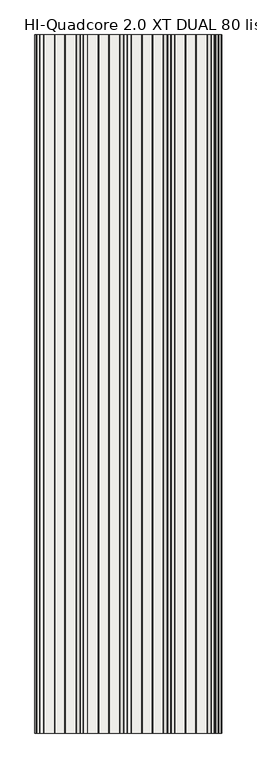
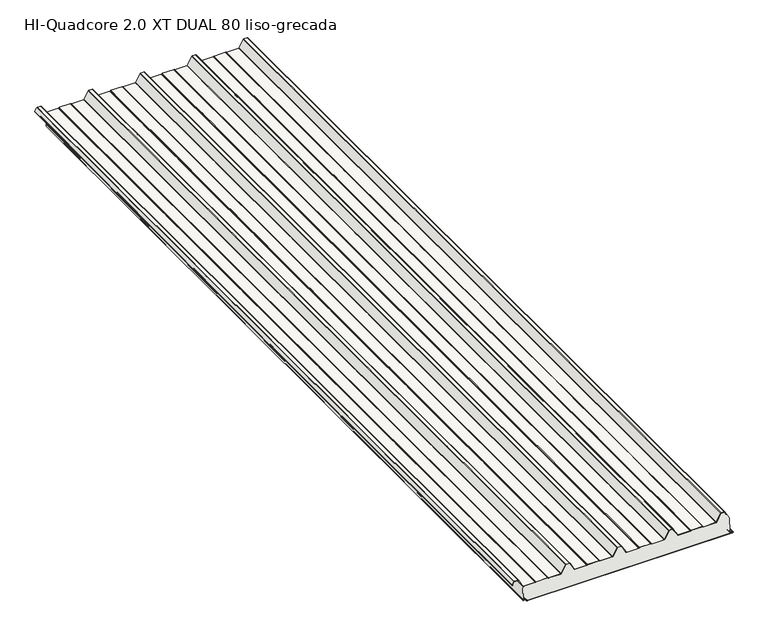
"""IFC4 building model written with IfcOpenShell, lengths in millimetres: slab geometry, Panel_HI_QuadCore 2.0 XT-XT DUAL_liso-grecada : HI-Quadcore 2.0 XT DUAL 80 liso-grecada."""

from ifc_helpers import new_model, si_unit, point, frame, frame_2d, origin, place, context, project, spatial, polyline, circle_curve, trimmed, segment, composite_curve, outline, extrude, source, transform, mapped, element, save
from ifc_brep_helpers import plane_surface, cylinder_surface, revolved_surface, advanced_brep


def hi_quadcore_2_0_xt_dual_80_liso_grecada_d40f7e20(model_context):
    return source(origin(), model_context, "Body", "SolidModel", [
        advanced_brep(
        [(-463.5686109, 0.0, 13.3795578), (-464.1543582, 0.0, 11.9654043), (-464.1543963, 0.0, 8.2995811), (-462.3003213, 0.0, 6.328543), (-451.8922768, 0.0, 5.5663871), (-450.0967368, 0.0, 3.5769209), (-450.0966924, 0.0, 1.9756011), (-448.096637, 0.0, -0.0243435), (547.9162803, 0.0, 0.003269), (549.9046779, 0.0, 2.0032908), (549.904653, 0.0, 2.9012893), (548.0077486, 0.0, 4.8985749), (536.1928118, 0.0, 5.7933732), (534.3438482, 0.0, 7.7876066), (534.3437386, 0.0, 11.7402379), (533.757913, 0.0, 13.1544352), (532.3436602, 0.0, 14.5686095), (531.7779748, 0.0, 14.0029241), (533.1922433, 0.0, 12.5887341), (533.5437386, 0.0, 11.7402157), (533.5438482, 0.0, 7.7875844), (536.1323972, 0.0, 4.9956577), (547.958132, 0.0, 4.1000416), (549.104653, 0.0, 2.9012672), (549.1046779, 0.0, 2.0032686), (547.9136554, 0.0, 0.8032689), (-448.0966592, 0.0, 0.7756565), (-449.2966924, 0.0, 1.9756233), (-449.2967368, 0.0, 3.5769431), (-451.8231384, 0.0, 6.3634663), (-462.2418956, 0.0, 7.1264067), (-463.3542572, 0.0, 8.3231689), (-463.3543582, 0.0, 11.965396), (-463.0029098, 0.0, 12.8138881), (-460.8967817, 0.0, 14.920133), (-461.4624671, 0.0, 15.4858184), (-463.5686109, 4000.0, 13.3795578), (-461.4624671, 4000.0, 15.4858184), (-460.8967817, 4000.0, 14.920133), (-463.0029098, 4000.0, 12.8138881), (-463.3543582, 4000.0, 11.965396), (-463.3543963, 4000.0, 8.2995728), (-462.2418956, 4000.0, 7.1264067), (-451.8231384, 4000.0, 6.3634663), (-449.2967368, 4000.0, 3.5769431), (-449.2966924, 4000.0, 1.9756233), (-448.0966592, 4000.0, 0.7756565), (547.9136554, 4000.0, 0.8032689), (549.1046779, 4000.0, 2.0032686), (549.104653, 4000.0, 2.9012672), (547.958132, 4000.0, 4.1000416), (536.1323972, 4000.0, 4.9956577), (533.5438482, 4000.0, 7.7875844), (533.5437386, 4000.0, 11.7402157), (533.1922433, 4000.0, 12.5887341), (531.7779748, 4000.0, 14.0029241), (532.3436602, 4000.0, 14.5686095), (533.757913, 4000.0, 13.1544352), (534.3437386, 4000.0, 11.7402379), (534.3438482, 4000.0, 7.7876066), (536.1928118, 4000.0, 5.7933732), (548.0077486, 4000.0, 4.8985749), (549.904653, 4000.0, 2.9012893), (549.9046779, 4000.0, 2.0032908), (547.9162803, 4000.0, 0.003269), (-448.096637, 4000.0, -0.0243435), (-450.0966924, 4000.0, 1.9756011), (-450.0967368, 4000.0, 3.5769209), (-451.8922768, 4000.0, 5.5663871), (-462.3003213, 4000.0, 6.328543), (-464.1542572, 4000.0, 8.3231467), (-464.1543582, 4000.0, 11.9654043)],
        [
            (0, 1, circle_curve(frame((-462.1543582, 0.0, 11.9653834), z_axis=(0.0, -1.0, 0.0), x_axis=(1.0, 0.0, 0.0)), 2.0)),
            (1, 2),
            (2, 3, circle_curve(frame((-462.1542572, 0.0, 8.3232022), z_axis=(0.0, -1.0, 0.0), x_axis=(1.0, 0.0, 0.0)), 2.0)),
            (3, 4),
            (4, 5, circle_curve(frame((-452.0967368, 0.0, 3.5768655), z_axis=(0.0, 1.0, 0.0), x_axis=(1.0, 0.0, 0.0)), 2.0)),
            (5, 6),
            (6, 7, circle_curve(frame((-448.0966924, 0.0, 1.9756565), z_axis=(0.0, -1.0, 0.0), x_axis=(1.0, 0.0, 0.0)), 2.0)),
            (7, 8),
            (8, 9, circle_curve(frame((547.9046779, 0.0, 2.0032353), z_axis=(0.0, -1.0, 0.0), x_axis=(1.0, 0.0, 0.0)), 2.0)),
            (9, 10),
            (10, 11, circle_curve(frame((547.904653, 0.0, 2.9012339), z_axis=(0.0, -1.0, 0.0), x_axis=(1.0, 0.0, 0.0)), 2.0)),
            (11, 12),
            (12, 13, circle_curve(frame((536.3438482, 0.0, 7.7876621), z_axis=(0.0, 1.0, 0.0), x_axis=(1.0, 0.0, 0.0)), 2.0)),
            (13, 14),
            (14, 15, circle_curve(frame((532.3437386, 0.0, 11.7401824), z_axis=(0.0, -1.0, 0.0), x_axis=(1.0, 0.0, 0.0)), 2.0)),
            (15, 16),
            (16, 17),
            (17, 18),
            (18, 19, circle_curve(frame((532.3437386, 0.0, 11.7401824), z_axis=(0.0, 1.0, 0.0), x_axis=(1.0, 0.0, 0.0)), 1.2)),
            (19, 20),
            (20, 21, circle_curve(frame((536.3438482, 0.0, 7.7876621), z_axis=(0.0, -1.0, 0.0), x_axis=(1.0, 0.0, 0.0)), 2.8)),
            (21, 22),
            (22, 23, circle_curve(frame((547.904653, 0.0, 2.9012339), z_axis=(0.0, 1.0, 0.0), x_axis=(1.0, 0.0, 0.0)), 1.2)),
            (23, 24),
            (24, 25, circle_curve(frame((547.9046779, 0.0, 2.0032353), z_axis=(0.0, 1.0, 0.0), x_axis=(1.0, 0.0, 0.0)), 1.2)),
            (25, 26),
            (26, 27, circle_curve(frame((-448.0966924, 0.0, 1.9756565), z_axis=(0.0, 1.0, 0.0), x_axis=(1.0, 0.0, 0.0)), 1.2)),
            (27, 28),
            (28, 29, circle_curve(frame((-452.0967368, 0.0, 3.5768655), z_axis=(0.0, -1.0, 0.0), x_axis=(1.0, 0.0, 0.0)), 2.8)),
            (29, 30),
            (30, 31, circle_curve(frame((-462.1542572, 0.0, 8.3232022), z_axis=(0.0, 1.0, 0.0), x_axis=(1.0, 0.0, 0.0)), 1.2)),
            (31, 32),
            (32, 33, circle_curve(frame((-462.1543582, 0.0, 11.9653834), z_axis=(0.0, 1.0, 0.0), x_axis=(1.0, 0.0, 0.0)), 1.2)),
            (33, 34),
            (34, 35),
            (35, 0),
            (36, 37),
            (37, 38),
            (38, 39),
            (39, 40, circle_curve(frame((-462.1543582, 4000.0, 11.9653834), z_axis=(0.0, -1.0, 0.0), x_axis=(1.0, 0.0, 0.0)), 1.2)),
            (40, 41),
            (41, 42, circle_curve(frame((-462.1542572, 4000.0, 8.3232022), z_axis=(0.0, -1.0, 0.0), x_axis=(1.0, 0.0, 0.0)), 1.2)),
            (42, 43),
            (43, 44, circle_curve(frame((-452.0967368, 4000.0, 3.5768655), z_axis=(0.0, 1.0, 0.0), x_axis=(1.0, 0.0, 0.0)), 2.8)),
            (44, 45),
            (45, 46, circle_curve(frame((-448.0966924, 4000.0, 1.9756565), z_axis=(0.0, -1.0, 0.0), x_axis=(1.0, 0.0, 0.0)), 1.2)),
            (46, 47),
            (47, 48, circle_curve(frame((547.9046779, 4000.0, 2.0032353), z_axis=(0.0, -1.0, 0.0), x_axis=(1.0, 0.0, 0.0)), 1.2)),
            (48, 49),
            (49, 50, circle_curve(frame((547.904653, 4000.0, 2.9012339), z_axis=(0.0, -1.0, 0.0), x_axis=(1.0, 0.0, 0.0)), 1.2)),
            (50, 51),
            (51, 52, circle_curve(frame((536.3438482, 4000.0, 7.7876621), z_axis=(0.0, 1.0, 0.0), x_axis=(1.0, 0.0, 0.0)), 2.8)),
            (52, 53),
            (53, 54, circle_curve(frame((532.3437386, 4000.0, 11.7401824), z_axis=(0.0, -1.0, 0.0), x_axis=(1.0, 0.0, 0.0)), 1.2)),
            (54, 55),
            (55, 56),
            (56, 57),
            (57, 58, circle_curve(frame((532.3437386, 4000.0, 11.7401824), z_axis=(0.0, 1.0, 0.0), x_axis=(1.0, 0.0, 0.0)), 2.0)),
            (58, 59),
            (59, 60, circle_curve(frame((536.3438482, 4000.0, 7.7876621), z_axis=(0.0, -1.0, 0.0), x_axis=(1.0, 0.0, 0.0)), 2.0)),
            (60, 61),
            (61, 62, circle_curve(frame((547.904653, 4000.0, 2.9012339), z_axis=(0.0, 1.0, 0.0), x_axis=(1.0, 0.0, 0.0)), 2.0)),
            (62, 63),
            (63, 64, circle_curve(frame((547.9046779, 4000.0, 2.0032353), z_axis=(0.0, 1.0, 0.0), x_axis=(1.0, 0.0, 0.0)), 2.0)),
            (64, 65),
            (65, 66, circle_curve(frame((-448.0966924, 4000.0, 1.9756565), z_axis=(0.0, 1.0, 0.0), x_axis=(1.0, 0.0, 0.0)), 2.0)),
            (66, 67),
            (67, 68, circle_curve(frame((-452.0967368, 4000.0, 3.5768655), z_axis=(0.0, -1.0, 0.0), x_axis=(1.0, 0.0, 0.0)), 2.0)),
            (68, 69),
            (69, 70, circle_curve(frame((-462.1542572, 4000.0, 8.3232022), z_axis=(0.0, 1.0, 0.0), x_axis=(1.0, 0.0, 0.0)), 2.0)),
            (70, 71),
            (71, 36, circle_curve(frame((-462.1543582, 4000.0, 11.9653834), z_axis=(0.0, 1.0, 0.0), x_axis=(1.0, 0.0, 0.0)), 2.0)),
            (0, 36),
            (71, 1),
            (70, 2),
            (69, 3),
            (68, 4),
            (67, 5),
            (66, 6),
            (65, 7),
            (64, 8),
            (63, 9),
            (62, 10),
            (61, 11),
            (60, 12),
            (59, 13),
            (58, 14),
            (57, 15),
            (56, 16),
            (55, 17),
            (54, 18),
            (53, 19),
            (52, 20),
            (51, 21),
            (50, 22),
            (49, 23),
            (48, 24),
            (47, 25),
            (46, 26),
            (45, 27),
            (44, 28),
            (43, 29),
            (42, 30),
            (41, 31),
            (40, 32),
            (39, 33),
            (38, 34),
            (37, 35),
        ],
        [
            plane_surface(frame((-460.1543582, 0.0, 11.9653834), z_axis=(0.0, -1.0, 0.0), x_axis=(0.0, 0.0, 1.0))),
            plane_surface(frame((-460.1543582, 4000.0, 11.9653834), z_axis=(0.0, 1.0, 0.0), x_axis=(0.0, 0.0, -1.0))),
            cylinder_surface(frame((-462.1543582, 4000.0, 11.9653834), z_axis=(0.0, -1.0, 0.0), x_axis=(1.0, 0.0, 0.0)), 2.0),
            plane_surface(frame((-464.1543582, 0.0, 11.9654043), z_axis=(-0.9999999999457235, 0.0, 1.041887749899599e-05), x_axis=(0.0, 1.0, 0.0))),
            cylinder_surface(frame((-462.1542572, 4000.0, 8.3232022), z_axis=(0.0, -1.0, 0.0), x_axis=(1.0, 0.0, 0.0)), 2.0),
            plane_surface(frame((-462.3003213, 0.0, 6.328543), z_axis=(-0.07303203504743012, 0.0, -0.9973295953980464), x_axis=(0.0, 1.0, 0.0))),
            revolved_surface(polyline([(-450.0967368, 4000.0, 3.5768655), (-450.0967368, 0.0, 3.5768655)]), (-452.0967368, 4000.0, 3.5768655), (0.0, 1.0, 0.0)),
            plane_surface(frame((-450.0967368, 0.0, 3.5769209), z_axis=(-0.9999999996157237, 0.0, -2.7722781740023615e-05), x_axis=(0.0, 1.0, 0.0))),
            cylinder_surface(frame((-448.0966924, 4000.0, 1.9756565), z_axis=(0.0, -1.0, 0.0), x_axis=(1.0, 0.0, 0.0)), 2.0),
            plane_surface(frame((-448.096637, 0.0, -0.0243435), z_axis=(2.772298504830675e-05, 0.0, -0.9999999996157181), x_axis=(0.0, 1.0, 0.0))),
            cylinder_surface(frame((547.9046779, 4000.0, 2.0032353), z_axis=(0.0, -1.0, 0.0), x_axis=(1.0, 0.0, 0.0)), 2.0),
            plane_surface(frame((549.9046779, 0.0, 2.0032908), z_axis=(0.9999999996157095, 0.0, 2.7723295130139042e-05), x_axis=(0.0, 1.0, 0.0))),
            cylinder_surface(frame((547.904653, 4000.0, 2.9012339), z_axis=(0.0, -1.0, 0.0), x_axis=(1.0, 0.0, 0.0)), 2.0),
            plane_surface(frame((548.0077486, 0.0, 4.8985749), z_axis=(0.07551822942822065, 0.0, 0.9971444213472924), x_axis=(0.0, 1.0, 0.0))),
            revolved_surface(polyline([(538.3438482, 4000.0, 7.7876621), (538.3438482, 0.0, 7.7876621)]), (536.3438482, 4000.0, 7.7876621), (0.0, 1.0, 0.0)),
            plane_surface(frame((534.3438482, 0.0, 7.7876066), z_axis=(0.9999999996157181, 0.0, 2.7722984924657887e-05), x_axis=(0.0, 1.0, 0.0))),
            cylinder_surface(frame((532.3437386, 4000.0, 11.7401824), z_axis=(0.0, -1.0, 0.0), x_axis=(1.0, 0.0, 0.0)), 2.0),
            plane_surface(frame((533.757913, 0.0, 13.1544352), z_axis=(0.7070871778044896, 0.0, 0.7071263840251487), x_axis=(0.0, 1.0, 0.0))),
            plane_surface(frame((532.3436602, 0.0, 14.5686095), z_axis=(-0.7071067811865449, 0.0, 0.7071067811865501), x_axis=(0.0, 1.0, 0.0))),
            plane_surface(frame((531.7779748, 0.0, 14.0029241), z_axis=(-0.7070871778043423, 0.0, -0.707126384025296), x_axis=(0.0, 1.0, 0.0))),
            revolved_surface(polyline([(533.5437386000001, 4000.0, 11.7401824), (533.5437386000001, 0.0, 11.7401824)]), (532.3437386, 4000.0, 11.7401824), (0.0, 1.0, 0.0)),
            plane_surface(frame((533.5437386, 0.0, 11.7402157), z_axis=(-0.9999999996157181, 0.0, -2.7722985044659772e-05), x_axis=(0.0, 1.0, 0.0))),
            cylinder_surface(frame((536.3438482, 4000.0, 7.7876621), z_axis=(0.0, -1.0, 0.0), x_axis=(1.0, 0.0, 0.0)), 2.8),
            plane_surface(frame((536.1323972, 0.0, 4.9956577), z_axis=(-0.07551822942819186, 0.0, -0.9971444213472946), x_axis=(0.0, 1.0, 0.0))),
            revolved_surface(polyline([(549.1046530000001, 4000.0, 2.9012339), (549.1046530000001, 0.0, 2.9012339)]), (547.904653, 4000.0, 2.9012339), (0.0, 1.0, 0.0)),
            plane_surface(frame((549.104653, 0.0, 2.9012672), z_axis=(-0.9999999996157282, 0.0, -2.7722622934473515e-05), x_axis=(0.0, 1.0, 0.0))),
            revolved_surface(polyline([(549.1046779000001, 4000.0, 2.0032353), (549.1046779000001, 0.0, 2.0032353)]), (547.9046779, 4000.0, 2.0032353), (0.0, 1.0, 0.0)),
            plane_surface(frame((547.9136554, 0.0, 0.8032689), z_axis=(-2.7722985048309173e-05, 0.0, 0.9999999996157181), x_axis=(0.0, 1.0, 0.0))),
            revolved_surface(polyline([(-446.8966924, 4000.0, 1.9756565), (-446.8966924, 0.0, 1.9756565)]), (-448.0966924, 4000.0, 1.9756565), (0.0, 1.0, 0.0)),
            plane_surface(frame((-449.2966924, 0.0, 1.9756233), z_axis=(0.9999999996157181, 0.0, 2.7722983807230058e-05), x_axis=(0.0, 1.0, 0.0))),
            cylinder_surface(frame((-452.0967368, 4000.0, 3.5768655), z_axis=(0.0, -1.0, 0.0), x_axis=(1.0, 0.0, 0.0)), 2.8),
            plane_surface(frame((-451.8231384, 0.0, 6.3634663), z_axis=(0.0730320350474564, 0.0, 0.9973295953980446), x_axis=(0.0, 1.0, 0.0))),
            revolved_surface(polyline([(-460.95425720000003, 4000.0, 8.3232022), (-460.95425720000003, 0.0, 8.3232022)]), (-462.1542572, 4000.0, 8.3232022), (0.0, 1.0, 0.0)),
            plane_surface(frame((-463.3543963, 0.0, 8.2995728), z_axis=(0.9999999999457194, 0.0, -1.0419274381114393e-05), x_axis=(0.0, 1.0, 0.0))),
            revolved_surface(polyline([(-460.9543582, 4000.0, 11.9653834), (-460.9543582, 0.0, 11.9653834)]), (-462.1543582, 4000.0, 11.9653834), (0.0, 1.0, 0.0)),
            plane_surface(frame((-463.0029098, 0.0, 12.8138881), z_axis=(0.7071263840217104, 0.0, -0.7070871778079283), x_axis=(0.0, 1.0, 0.0))),
            plane_surface(frame((-460.8967817, 0.0, 14.920133), z_axis=(0.7071067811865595, 0.0, 0.7071067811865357), x_axis=(0.0, 1.0, 0.0))),
            plane_surface(frame((-461.4624671, 0.0, 15.4858184), z_axis=(-0.7071263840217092, 0.0, 0.7070871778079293), x_axis=(0.0, 1.0, 0.0))),
        ],
        [
            (0, [[1, 2, 3, 4, 5, 6, 7, 8, 9, 10, 11, 12, 13, 14, 15, 16, 17, 18, 19, 20, 21, 22, 23, 24, 25, 26, 27, 28, 29, 30, 31, 32, 33, 34, 35, 36]]),
            (1, [[37, 38, 39, 40, 41, 42, 43, 44, 45, 46, 47, 48, 49, 50, 51, 52, 53, 54, 55, 56, 57, 58, 59, 60, 61, 62, 63, 64, 65, 66, 67, 68, 69, 70, 71, 72]]),
            (2, [[-1, 73, -72, 74]]),
            (3, [[-2, -74, -71, 75]]),
            (4, [[-3, -75, -70, 76]]),
            (5, [[-4, -76, -69, 77]]),
            (6, [[-5, -77, -68, 78]]),
            (7, [[-6, -78, -67, 79]]),
            (8, [[-7, -79, -66, 80]]),
            (9, [[-8, -80, -65, 81]]),
            (10, [[-9, -81, -64, 82]]),
            (11, [[-10, -82, -63, 83]]),
            (12, [[-11, -83, -62, 84]]),
            (13, [[-12, -84, -61, 85]]),
            (14, [[-13, -85, -60, 86]]),
            (15, [[-14, -86, -59, 87]]),
            (16, [[-15, -87, -58, 88]]),
            (17, [[-16, -88, -57, 89]]),
            (18, [[-17, -89, -56, 90]]),
            (19, [[-18, -90, -55, 91]]),
            (20, [[-19, -91, -54, 92]]),
            (21, [[-20, -92, -53, 93]]),
            (22, [[-21, -93, -52, 94]]),
            (23, [[-22, -94, -51, 95]]),
            (24, [[-23, -95, -50, 96]]),
            (25, [[-24, -96, -49, 97]]),
            (26, [[-25, -97, -48, 98]]),
            (27, [[-26, -98, -47, 99]]),
            (28, [[-27, -99, -46, 100]]),
            (29, [[-28, -100, -45, 101]]),
            (30, [[-29, -101, -44, 102]]),
            (31, [[-30, -102, -43, 103]]),
            (32, [[-31, -103, -42, 104]]),
            (33, [[-32, -104, -41, 105]]),
            (34, [[-33, -105, -40, 106]]),
            (35, [[-34, -106, -39, 107]]),
            (36, [[-35, -107, -38, 108]]),
            (37, [[-36, -108, -37, -73]]),
        ],
    ),
        extrude(outline(composite_curve([segment(polyline([(118.1649405, -511.4858571), (103.6579587, -519.6460344)]), True, "CONTINUOUS"), segment(trimmed(circle_curve(frame_2d((103.0451321, -518.556565)), 1.25), [point((103.6579587, -519.6460344))], [point((102.689225, -517.3583037))], False, "CARTESIAN"), True, "CONTINUOUS"), segment(polyline([(102.689225, -517.3583037), (105.7359115, -516.562859), (105.9380053, -517.336912), (102.9074492, -518.1281453)]), True, "CONTINUOUS"), segment(trimmed(circle_curve(frame_2d((103.0451321, -518.556565)), 0.45), [point((102.9074492, -518.1281453))], [point((103.2657497, -518.948774))], True, "CARTESIAN"), True, "CONTINUOUS"), segment(polyline([(103.2657497, -518.948774), (117.7727315, -510.7885967)]), True, "CONTINUOUS"), segment(trimmed(circle_curve(frame_2d((116.4, -508.3481852)), 2.8), [point((117.7727315, -510.7885967))], [point((119.2, -508.3481852))], True, "CARTESIAN"), True, "CONTINUOUS"), segment(polyline([(119.2, -508.3481852), (119.2, -491.0688883)]), True, "CONTINUOUS"), segment(trimmed(circle_curve(frame_2d((116.4, -491.0688883)), 2.8), [point((119.2, -491.0688883))], [point((117.5457267, -488.5140281))], True, "CARTESIAN"), True, "CONTINUOUS"), segment(polyline([(117.5457267, -488.5140281), (81.2048889, -468.6947225)]), True, "CONTINUOUS"), segment(trimmed(circle_curve(frame_2d((83.0, -465.3454575)), 3.8), [point((81.2048889, -468.6947225))], [point((79.2, -465.3454575))], False, "CARTESIAN"), True, "CONTINUOUS"), segment(polyline([(79.2, -465.3454575), (79.2, -407.5510443)]), True, "CONTINUOUS"), segment(trimmed(circle_curve(frame_2d((83.0, -407.5510443)), 3.8), [point((79.2, -407.5510443))], [point((79.6973596, -405.671532))], False, "CARTESIAN"), True, "CONTINUOUS"), segment(polyline([(79.6973596, -405.671532), (80.912055, -403.5370944)]), True, "CONTINUOUS"), segment(trimmed(circle_curve(frame_2d((79.0, -402.4489557)), 2.2), [point((80.912055, -403.5370944))], [point((81.2, -402.4489557))], True, "CARTESIAN"), True, "CONTINUOUS"), segment(polyline([(81.2, -402.4489557), (81.2, -347.5510443)]), True, "CONTINUOUS"), segment(trimmed(circle_curve(frame_2d((79.0, -347.5510443)), 2.2), [point((81.2, -347.5510443))], [point((80.912055, -346.4629056))], True, "CARTESIAN"), True, "CONTINUOUS"), segment(polyline([(80.912055, -346.4629056), (79.6973596, -344.328468)]), True, "CONTINUOUS"), segment(trimmed(circle_curve(frame_2d((83.0, -342.4489557)), 3.8), [point((79.6973596, -344.328468))], [point((79.2, -342.4489557))], False, "CARTESIAN"), True, "CONTINUOUS"), segment(polyline([(79.2, -342.4489557), (79.2, -284.2545425)]), True, "CONTINUOUS"), segment(trimmed(circle_curve(frame_2d((83.0, -284.2545425)), 3.8), [point((79.2, -284.2545425))], [point((81.1370073, -280.9425554))], False, "CARTESIAN"), True, "CONTINUOUS"), segment(polyline([(81.1370073, -280.9425554), (118.0785747, -260.1629237)]), True, "CONTINUOUS"), segment(trimmed(circle_curve(frame_2d((117.0, -258.2454575)), 2.2), [point((118.0785747, -260.1629237))], [point((119.2, -258.2454575))], True, "CARTESIAN"), True, "CONTINUOUS"), segment(polyline([(119.2, -258.2454575), (119.2, -241.7545425)]), True, "CONTINUOUS"), segment(trimmed(circle_curve(frame_2d((117.0, -241.7545425)), 2.2), [point((119.2, -241.7545425))], [point((118.0785747, -239.8370763))], True, "CARTESIAN"), True, "CONTINUOUS"), segment(polyline([(118.0785747, -239.8370763), (81.1370073, -219.0574446)]), True, "CONTINUOUS"), segment(trimmed(circle_curve(frame_2d((83.0, -215.7454575)), 3.8), [point((81.1370073, -219.0574446))], [point((79.2, -215.7454575))], False, "CARTESIAN"), True, "CONTINUOUS"), segment(polyline([(79.2, -215.7454575), (79.2, -157.5510443)]), True, "CONTINUOUS"), segment(trimmed(circle_curve(frame_2d((83.0, -157.5510443)), 3.8), [point((79.2, -157.5510443))], [point((79.6973596, -155.671532))], False, "CARTESIAN"), True, "CONTINUOUS"), segment(polyline([(79.6973596, -155.671532), (80.912055, -153.5370944)]), True, "CONTINUOUS"), segment(trimmed(circle_curve(frame_2d((79.0, -152.4489557)), 2.2), [point((80.912055, -153.5370944))], [point((81.2, -152.4489557))], True, "CARTESIAN"), True, "CONTINUOUS"), segment(polyline([(81.2, -152.4489557), (81.2, -97.5510443)]), True, "CONTINUOUS"), segment(trimmed(circle_curve(frame_2d((79.0, -97.5510443)), 2.2), [point((81.2, -97.5510443))], [point((80.912055, -96.4629056))], True, "CARTESIAN"), True, "CONTINUOUS"), segment(polyline([(80.912055, -96.4629056), (79.6973596, -94.328468)]), True, "CONTINUOUS"), segment(trimmed(circle_curve(frame_2d((83.0, -92.4489557)), 3.8), [point((79.6973596, -94.328468))], [point((79.2, -92.4489557))], False, "CARTESIAN"), True, "CONTINUOUS"), segment(polyline([(79.2, -92.4489557), (79.2, -34.2545425)]), True, "CONTINUOUS"), segment(trimmed(circle_curve(frame_2d((83.0, -34.2545425)), 3.8), [point((79.2, -34.2545425))], [point((81.1370073, -30.9425554))], False, "CARTESIAN"), True, "CONTINUOUS"), segment(polyline([(81.1370073, -30.9425554), (118.0785747, -10.1629237)]), True, "CONTINUOUS"), segment(trimmed(circle_curve(frame_2d((117.0, -8.2454575)), 2.2), [point((118.0785747, -10.1629237))], [point((119.2, -8.2454575))], True, "CARTESIAN"), True, "CONTINUOUS"), segment(polyline([(119.2, -8.2454575), (119.2, 8.2454575)]), True, "CONTINUOUS"), segment(trimmed(circle_curve(frame_2d((117.0, 8.2454575)), 2.2), [point((119.2, 8.2454575))], [point((118.0785747, 10.1629237))], True, "CARTESIAN"), True, "CONTINUOUS"), segment(polyline([(118.0785747, 10.1629237), (81.1370073, 30.9425554)]), True, "CONTINUOUS"), segment(trimmed(circle_curve(frame_2d((83.0, 34.2545425)), 3.8), [point((81.1370073, 30.9425554))], [point((79.2, 34.2545425))], False, "CARTESIAN"), True, "CONTINUOUS"), segment(polyline([(79.2, 34.2545425), (79.2, 92.4489557)]), True, "CONTINUOUS"), segment(trimmed(circle_curve(frame_2d((83.0, 92.4489557)), 3.8), [point((79.2, 92.4489557))], [point((79.6973596, 94.328468))], False, "CARTESIAN"), True, "CONTINUOUS"), segment(polyline([(79.6973596, 94.328468), (80.912055, 96.4629056)]), True, "CONTINUOUS"), segment(trimmed(circle_curve(frame_2d((79.0, 97.5510443)), 2.2), [point((80.912055, 96.4629056))], [point((81.2, 97.5510443))], True, "CARTESIAN"), True, "CONTINUOUS"), segment(polyline([(81.2, 97.5510443), (81.2, 152.4489557)]), True, "CONTINUOUS"), segment(trimmed(circle_curve(frame_2d((79.0, 152.4489557)), 2.2), [point((81.2, 152.4489557))], [point((80.912055, 153.5370944))], True, "CARTESIAN"), True, "CONTINUOUS"), segment(polyline([(80.912055, 153.5370944), (79.6973596, 155.671532)]), True, "CONTINUOUS"), segment(trimmed(circle_curve(frame_2d((83.0, 157.5510443)), 3.8), [point((79.6973596, 155.671532))], [point((79.2, 157.5510443))], False, "CARTESIAN"), True, "CONTINUOUS"), segment(polyline([(79.2, 157.5510443), (79.2, 215.7454575)]), True, "CONTINUOUS"), segment(trimmed(circle_curve(frame_2d((83.0, 215.7454575)), 3.8), [point((79.2, 215.7454575))], [point((81.1370073, 219.0574446))], False, "CARTESIAN"), True, "CONTINUOUS"), segment(polyline([(81.1370073, 219.0574446), (118.0785747, 239.8370763)]), True, "CONTINUOUS"), segment(trimmed(circle_curve(frame_2d((117.0, 241.7545425)), 2.2), [point((118.0785747, 239.8370763))], [point((119.2, 241.7545425))], True, "CARTESIAN"), True, "CONTINUOUS"), segment(polyline([(119.2, 241.7545425), (119.2, 258.2454575)]), True, "CONTINUOUS"), segment(trimmed(circle_curve(frame_2d((117.0, 258.2454575)), 2.2), [point((119.2, 258.2454575))], [point((118.0785747, 260.1629237))], True, "CARTESIAN"), True, "CONTINUOUS"), segment(polyline([(118.0785747, 260.1629237), (81.1370073, 280.9425554)]), True, "CONTINUOUS"), segment(trimmed(circle_curve(frame_2d((83.0, 284.2545425)), 3.8), [point((81.1370073, 280.9425554))], [point((79.2, 284.2545425))], False, "CARTESIAN"), True, "CONTINUOUS"), segment(polyline([(79.2, 284.2545425), (79.2, 342.4489557)]), True, "CONTINUOUS"), segment(trimmed(circle_curve(frame_2d((83.0, 342.4489557)), 3.8), [point((79.2, 342.4489557))], [point((79.6973596, 344.328468))], False, "CARTESIAN"), True, "CONTINUOUS"), segment(polyline([(79.6973596, 344.328468), (80.912055, 346.4629056)]), True, "CONTINUOUS"), segment(trimmed(circle_curve(frame_2d((79.0, 347.5510443)), 2.2), [point((80.912055, 346.4629056))], [point((81.2, 347.5510443))], True, "CARTESIAN"), True, "CONTINUOUS"), segment(polyline([(81.2, 347.5510443), (81.2, 402.4489557)]), True, "CONTINUOUS"), segment(trimmed(circle_curve(frame_2d((79.0, 402.4489557)), 2.2), [point((81.2, 402.4489557))], [point((80.912055, 403.5370944))], True, "CARTESIAN"), True, "CONTINUOUS"), segment(polyline([(80.912055, 403.5370944), (79.6973596, 405.671532)]), True, "CONTINUOUS"), segment(trimmed(circle_curve(frame_2d((83.0, 407.5510443)), 3.8), [point((79.6973596, 405.671532))], [point((79.2, 407.5510443))], False, "CARTESIAN"), True, "CONTINUOUS"), segment(polyline([(79.2, 407.5510443), (79.2, 466.4208923)]), True, "CONTINUOUS"), segment(trimmed(circle_curve(frame_2d((83.0, 466.4208923)), 3.8), [point((79.2, 466.4208923))], [point((81.1583504, 469.7447946))], False, "CARTESIAN"), True, "CONTINUOUS"), segment(polyline([(81.1583504, 469.7447946), (118.0662182, 490.1940602)]), True, "CONTINUOUS"), segment(trimmed(circle_curve(frame_2d((117.0, 492.1184247)), 2.2), [point((118.0662182, 490.1940602))], [point((119.2, 492.1184247))], True, "CARTESIAN"), True, "CONTINUOUS"), segment(polyline([(119.2, 492.1184247), (119.2, 507.4945491)]), True, "CONTINUOUS"), segment(trimmed(circle_curve(frame_2d((117.0, 507.4945491)), 2.2), [point((119.2, 507.4945491))], [point((118.0785747, 509.4120152))], True, "CARTESIAN"), True, "CONTINUOUS"), segment(polyline([(118.0785747, 509.4120152), (107.5275176, 515.3469849)]), True, "CONTINUOUS"), segment(trimmed(circle_curve(frame_2d((106.9392041, 514.3010942)), 1.2), [point((107.5275176, 515.3469849))], [point((106.3392623, 515.3403583))], True, "CARTESIAN"), True, "CONTINUOUS"), segment(polyline([(106.3392623, 515.3403583), (104.7281681, 514.4103128), (104.3282068, 515.1031555), (105.939301, 516.033201)]), True, "CONTINUOUS"), segment(trimmed(circle_curve(frame_2d((106.9392041, 514.3010942)), 2.0), [point((105.939301, 516.033201))], [point((107.9197266, 516.0442453))], False, "CARTESIAN"), True, "CONTINUOUS"), segment(polyline([(107.9197266, 516.0442453), (118.4707837, 510.1092757)]), True, "CONTINUOUS"), segment(trimmed(circle_curve(frame_2d((117.0, 507.4945491)), 3.0), [point((118.4707837, 510.1092757))], [point((120.0, 507.4945491))], False, "CARTESIAN"), True, "CONTINUOUS"), segment(polyline([(120.0, 507.4945491), (120.0, 492.1184247)]), True, "CONTINUOUS"), segment(trimmed(circle_curve(frame_2d((117.0, 492.1184247)), 3.0), [point((120.0, 492.1184247))], [point((118.4539339, 489.4942913))], False, "CARTESIAN"), True, "CONTINUOUS"), segment(polyline([(118.4539339, 489.4942913), (81.5460661, 469.0450257)]), True, "CONTINUOUS"), segment(trimmed(circle_curve(frame_2d((83.0, 466.4208923)), 3.0), [point((81.5460661, 469.0450257))], [point((80.0, 466.4208923))], True, "CARTESIAN"), True, "CONTINUOUS"), segment(polyline([(80.0, 466.4208923), (80.0, 407.5510443)]), True, "CONTINUOUS"), segment(trimmed(circle_curve(frame_2d((83.0, 407.5510443)), 3.0), [point((80.0, 407.5510443))], [point((80.3926523, 406.0672188))], True, "CARTESIAN"), True, "CONTINUOUS"), segment(polyline([(80.3926523, 406.0672188), (81.6073477, 403.9327812)]), True, "CONTINUOUS"), segment(trimmed(circle_curve(frame_2d((79.0, 402.4489557)), 3.0), [point((81.6073477, 403.9327812))], [point((82.0, 402.4489557))], False, "CARTESIAN"), True, "CONTINUOUS"), segment(polyline([(82.0, 402.4489557), (82.0, 347.5510443)]), True, "CONTINUOUS"), segment(trimmed(circle_curve(frame_2d((79.0, 347.5510443)), 3.0), [point((82.0, 347.5510443))], [point((81.6073477, 346.0672188))], False, "CARTESIAN"), True, "CONTINUOUS"), segment(polyline([(81.6073477, 346.0672188), (80.3926523, 343.9327812)]), True, "CONTINUOUS"), segment(trimmed(circle_curve(frame_2d((83.0, 342.4489557)), 3.0), [point((80.3926523, 343.9327812))], [point((80.0, 342.4489557))], True, "CARTESIAN"), True, "CONTINUOUS"), segment(polyline([(80.0, 342.4489557), (80.0, 284.2545425)]), True, "CONTINUOUS"), segment(trimmed(circle_curve(frame_2d((83.0, 284.2545425)), 3.0), [point((80.0, 284.2545425))], [point((81.5292163, 281.6398158))], True, "CARTESIAN"), True, "CONTINUOUS"), segment(polyline([(81.5292163, 281.6398158), (118.4707837, 260.8601842)]), True, "CONTINUOUS"), segment(trimmed(circle_curve(frame_2d((117.0, 258.2454575)), 3.0), [point((118.4707837, 260.8601842))], [point((120.0, 258.2454575))], False, "CARTESIAN"), True, "CONTINUOUS"), segment(polyline([(120.0, 258.2454575), (120.0, 241.7545425)]), True, "CONTINUOUS"), segment(trimmed(circle_curve(frame_2d((117.0, 241.7545425)), 3.0), [point((120.0, 241.7545425))], [point((118.4707837, 239.1398158))], False, "CARTESIAN"), True, "CONTINUOUS"), segment(polyline([(118.4707837, 239.1398158), (81.5292163, 218.3601842)]), True, "CONTINUOUS"), segment(trimmed(circle_curve(frame_2d((83.0, 215.7454575)), 3.0), [point((81.5292163, 218.3601842))], [point((80.0, 215.7454575))], True, "CARTESIAN"), True, "CONTINUOUS"), segment(polyline([(80.0, 215.7454575), (80.0, 157.5510443)]), True, "CONTINUOUS"), segment(trimmed(circle_curve(frame_2d((83.0, 157.5510443)), 3.0), [point((80.0, 157.5510443))], [point((80.3926523, 156.0672188))], True, "CARTESIAN"), True, "CONTINUOUS"), segment(polyline([(80.3926523, 156.0672188), (81.6073477, 153.9327812)]), True, "CONTINUOUS"), segment(trimmed(circle_curve(frame_2d((79.0, 152.4489557)), 3.0), [point((81.6073477, 153.9327812))], [point((82.0, 152.4489557))], False, "CARTESIAN"), True, "CONTINUOUS"), segment(polyline([(82.0, 152.4489557), (82.0, 97.5510443)]), True, "CONTINUOUS"), segment(trimmed(circle_curve(frame_2d((79.0, 97.5510443)), 3.0), [point((82.0, 97.5510443))], [point((81.6073477, 96.0672188))], False, "CARTESIAN"), True, "CONTINUOUS"), segment(polyline([(81.6073477, 96.0672188), (80.3926523, 93.9327812)]), True, "CONTINUOUS"), segment(trimmed(circle_curve(frame_2d((83.0, 92.4489557)), 3.0), [point((80.3926523, 93.9327812))], [point((80.0, 92.4489557))], True, "CARTESIAN"), True, "CONTINUOUS"), segment(polyline([(80.0, 92.4489557), (80.0, 34.2545425)]), True, "CONTINUOUS"), segment(trimmed(circle_curve(frame_2d((83.0, 34.2545425)), 3.0), [point((80.0, 34.2545425))], [point((81.5292163, 31.6398158))], True, "CARTESIAN"), True, "CONTINUOUS"), segment(polyline([(81.5292163, 31.6398158), (118.4707837, 10.8601842)]), True, "CONTINUOUS"), segment(trimmed(circle_curve(frame_2d((117.0, 8.2454575)), 3.0), [point((118.4707837, 10.8601842))], [point((120.0, 8.2454575))], False, "CARTESIAN"), True, "CONTINUOUS"), segment(polyline([(120.0, 8.2454575), (120.0, -8.2454575)]), True, "CONTINUOUS"), segment(trimmed(circle_curve(frame_2d((117.0, -8.2454575)), 3.0), [point((120.0, -8.2454575))], [point((118.4707837, -10.8601842))], False, "CARTESIAN"), True, "CONTINUOUS"), segment(polyline([(118.4707837, -10.8601842), (81.5292163, -31.6398158)]), True, "CONTINUOUS"), segment(trimmed(circle_curve(frame_2d((83.0, -34.2545425)), 3.0), [point((81.5292163, -31.6398158))], [point((80.0, -34.2545425))], True, "CARTESIAN"), True, "CONTINUOUS"), segment(polyline([(80.0, -34.2545425), (80.0, -92.4489557)]), True, "CONTINUOUS"), segment(trimmed(circle_curve(frame_2d((83.0, -92.4489557)), 3.0), [point((80.0, -92.4489557))], [point((80.3926523, -93.9327812))], True, "CARTESIAN"), True, "CONTINUOUS"), segment(polyline([(80.3926523, -93.9327812), (81.6073477, -96.0672188)]), True, "CONTINUOUS"), segment(trimmed(circle_curve(frame_2d((79.0, -97.5510443)), 3.0), [point((81.6073477, -96.0672188))], [point((82.0, -97.5510443))], False, "CARTESIAN"), True, "CONTINUOUS"), segment(polyline([(82.0, -97.5510443), (82.0, -152.4489557)]), True, "CONTINUOUS"), segment(trimmed(circle_curve(frame_2d((79.0, -152.4489557)), 3.0), [point((82.0, -152.4489557))], [point((81.6073477, -153.9327812))], False, "CARTESIAN"), True, "CONTINUOUS"), segment(polyline([(81.6073477, -153.9327812), (80.3926523, -156.0672188)]), True, "CONTINUOUS"), segment(trimmed(circle_curve(frame_2d((83.0, -157.5510443)), 3.0), [point((80.3926523, -156.0672188))], [point((80.0, -157.5510443))], True, "CARTESIAN"), True, "CONTINUOUS"), segment(polyline([(80.0, -157.5510443), (80.0, -215.7454575)]), True, "CONTINUOUS"), segment(trimmed(circle_curve(frame_2d((83.0, -215.7454575)), 3.0), [point((80.0, -215.7454575))], [point((81.5292163, -218.3601842))], True, "CARTESIAN"), True, "CONTINUOUS"), segment(polyline([(81.5292163, -218.3601842), (118.4707837, -239.1398158)]), True, "CONTINUOUS"), segment(trimmed(circle_curve(frame_2d((117.0, -241.7545425)), 3.0), [point((118.4707837, -239.1398158))], [point((120.0, -241.7545425))], False, "CARTESIAN"), True, "CONTINUOUS"), segment(polyline([(120.0, -241.7545425), (120.0, -258.2454575)]), True, "CONTINUOUS"), segment(trimmed(circle_curve(frame_2d((117.0, -258.2454575)), 3.0), [point((120.0, -258.2454575))], [point((118.4707837, -260.8601842))], False, "CARTESIAN"), True, "CONTINUOUS"), segment(polyline([(118.4707837, -260.8601842), (81.5292163, -281.6398158)]), True, "CONTINUOUS"), segment(trimmed(circle_curve(frame_2d((83.0, -284.2545425)), 3.0), [point((81.5292163, -281.6398158))], [point((80.0, -284.2545425))], True, "CARTESIAN"), True, "CONTINUOUS"), segment(polyline([(80.0, -284.2545425), (80.0, -342.4489557)]), True, "CONTINUOUS"), segment(trimmed(circle_curve(frame_2d((83.0, -342.4489557)), 3.0), [point((80.0, -342.4489557))], [point((80.3926523, -343.9327812))], True, "CARTESIAN"), True, "CONTINUOUS"), segment(polyline([(80.3926523, -343.9327812), (81.6073477, -346.0672188)]), True, "CONTINUOUS"), segment(trimmed(circle_curve(frame_2d((79.0, -347.5510443)), 3.0), [point((81.6073477, -346.0672188))], [point((82.0, -347.5510443))], False, "CARTESIAN"), True, "CONTINUOUS"), segment(polyline([(82.0, -347.5510443), (82.0, -402.4489557)]), True, "CONTINUOUS"), segment(trimmed(circle_curve(frame_2d((79.0, -402.4489557)), 3.0), [point((82.0, -402.4489557))], [point((81.6073477, -403.9327812))], False, "CARTESIAN"), True, "CONTINUOUS"), segment(polyline([(81.6073477, -403.9327812), (80.3926523, -406.0672188)]), True, "CONTINUOUS"), segment(trimmed(circle_curve(frame_2d((83.0, -407.5510443)), 3.0), [point((80.3926523, -406.0672188))], [point((80.0, -407.5510443))], True, "CARTESIAN"), True, "CONTINUOUS"), segment(polyline([(80.0, -407.5510443), (80.0, -465.3454575)]), True, "CONTINUOUS"), segment(trimmed(circle_curve(frame_2d((83.0, -465.3454575)), 3.0), [point((80.0, -465.3454575))], [point((81.5852209, -467.9909065))], True, "CARTESIAN"), True, "CONTINUOUS"), segment(polyline([(81.5852209, -467.9909065), (117.9031732, -487.7977309)]), True, "CONTINUOUS"), segment(trimmed(circle_curve(frame_2d((116.4, -491.0688883)), 3.6), [point((117.9031732, -487.7977309))], [point((120.0, -491.0688883))], False, "CARTESIAN"), True, "CONTINUOUS"), segment(polyline([(120.0, -491.0688883), (120.0, -508.3481852)]), True, "CONTINUOUS"), segment(trimmed(circle_curve(frame_2d((116.4, -508.3481852)), 3.6), [point((120.0, -508.3481852))], [point((118.1649405, -511.4858571))], False, "CARTESIAN"), True, "CONTINUOUS")], self_intersect=False)), frame((0.0, 0.0, 0.0), z_axis=(0.0, 1.0, 0.0), x_axis=(0.0, 0.0, 1.0)), (0.0, 0.0, 1.0), 4000.0),
        extrude(outline(composite_curve([segment(polyline([(81.2667387, 531.036551), (107.9197266, 516.0442453)]), True, "CONTINUOUS"), segment(trimmed(circle_curve(frame_2d((106.9392041, 514.3010942)), 2.0), [point((107.9197266, 516.0442453))], [point((105.939301, 516.033201))], True, "CARTESIAN"), True, "CONTINUOUS"), segment(polyline([(105.939301, 516.033201), (104.3282068, 515.1031555), (104.7281681, 514.4103128), (106.3392623, 515.3403583)]), True, "CONTINUOUS"), segment(trimmed(circle_curve(frame_2d((106.9392041, 514.3010942)), 1.2), [point((106.3392623, 515.3403583))], [point((107.5275176, 515.3469849))], False, "CARTESIAN"), True, "CONTINUOUS"), segment(polyline([(107.5275176, 515.3469849), (118.0785747, 509.4120152)]), True, "CONTINUOUS"), segment(trimmed(circle_curve(frame_2d((117.0, 507.4945491)), 2.2), [point((118.0785747, 509.4120152))], [point((119.2, 507.4945491))], False, "CARTESIAN"), True, "CONTINUOUS"), segment(polyline([(119.2, 507.4945491), (119.2, 492.1184247)]), True, "CONTINUOUS"), segment(trimmed(circle_curve(frame_2d((117.0, 492.1184247)), 2.2), [point((119.2, 492.1184247))], [point((118.0662182, 490.1940602))], False, "CARTESIAN"), True, "CONTINUOUS"), segment(polyline([(118.0662182, 490.1940602), (81.1583504, 469.7447946)]), True, "CONTINUOUS"), segment(trimmed(circle_curve(frame_2d((83.0, 466.4208923)), 3.8), [point((81.1583504, 469.7447946))], [point((79.2, 466.4208923))], True, "CARTESIAN"), True, "CONTINUOUS"), segment(polyline([(79.2, 466.4208923), (79.2, 407.5510443)]), True, "CONTINUOUS"), segment(trimmed(circle_curve(frame_2d((83.0, 407.5510443)), 3.8), [point((79.2, 407.5510443))], [point((79.6973596, 405.671532))], True, "CARTESIAN"), True, "CONTINUOUS"), segment(polyline([(79.6973596, 405.671532), (80.912055, 403.5370944)]), True, "CONTINUOUS"), segment(trimmed(circle_curve(frame_2d((79.0, 402.4489557)), 2.2), [point((80.912055, 403.5370944))], [point((81.2, 402.4489557))], False, "CARTESIAN"), True, "CONTINUOUS"), segment(polyline([(81.2, 402.4489557), (81.2, 347.5510443)]), True, "CONTINUOUS"), segment(trimmed(circle_curve(frame_2d((79.0, 347.5510443)), 2.2), [point((81.2, 347.5510443))], [point((80.912055, 346.4629056))], False, "CARTESIAN"), True, "CONTINUOUS"), segment(polyline([(80.912055, 346.4629056), (79.6973596, 344.328468)]), True, "CONTINUOUS"), segment(trimmed(circle_curve(frame_2d((83.0, 342.4489557)), 3.8), [point((79.6973596, 344.328468))], [point((79.2, 342.4489557))], True, "CARTESIAN"), True, "CONTINUOUS"), segment(polyline([(79.2, 342.4489557), (79.2, 284.2545425)]), True, "CONTINUOUS"), segment(trimmed(circle_curve(frame_2d((83.0, 284.2545425)), 3.8), [point((79.2, 284.2545425))], [point((81.1370073, 280.9425554))], True, "CARTESIAN"), True, "CONTINUOUS"), segment(polyline([(81.1370073, 280.9425554), (118.0785747, 260.1629237)]), True, "CONTINUOUS"), segment(trimmed(circle_curve(frame_2d((117.0, 258.2454575)), 2.2), [point((118.0785747, 260.1629237))], [point((119.2, 258.2454575))], False, "CARTESIAN"), True, "CONTINUOUS"), segment(polyline([(119.2, 258.2454575), (119.2, 241.7545425)]), True, "CONTINUOUS"), segment(trimmed(circle_curve(frame_2d((117.0, 241.7545425)), 2.2), [point((119.2, 241.7545425))], [point((118.0785747, 239.8370763))], False, "CARTESIAN"), True, "CONTINUOUS"), segment(polyline([(118.0785747, 239.8370763), (81.1370073, 219.0574446)]), True, "CONTINUOUS"), segment(trimmed(circle_curve(frame_2d((83.0, 215.7454575)), 3.8), [point((81.1370073, 219.0574446))], [point((79.2, 215.7454575))], True, "CARTESIAN"), True, "CONTINUOUS"), segment(polyline([(79.2, 215.7454575), (79.2, 157.5510443)]), True, "CONTINUOUS"), segment(trimmed(circle_curve(frame_2d((83.0, 157.5510443)), 3.8), [point((79.2, 157.5510443))], [point((79.6973596, 155.671532))], True, "CARTESIAN"), True, "CONTINUOUS"), segment(polyline([(79.6973596, 155.671532), (80.912055, 153.5370944)]), True, "CONTINUOUS"), segment(trimmed(circle_curve(frame_2d((79.0, 152.4489557)), 2.2), [point((80.912055, 153.5370944))], [point((81.2, 152.4489557))], False, "CARTESIAN"), True, "CONTINUOUS"), segment(polyline([(81.2, 152.4489557), (81.2, 97.5510443)]), True, "CONTINUOUS"), segment(trimmed(circle_curve(frame_2d((79.0, 97.5510443)), 2.2), [point((81.2, 97.5510443))], [point((80.912055, 96.4629056))], False, "CARTESIAN"), True, "CONTINUOUS"), segment(polyline([(80.912055, 96.4629056), (79.6973596, 94.328468)]), True, "CONTINUOUS"), segment(trimmed(circle_curve(frame_2d((83.0, 92.4489557)), 3.8), [point((79.6973596, 94.328468))], [point((79.2, 92.4489557))], True, "CARTESIAN"), True, "CONTINUOUS"), segment(polyline([(79.2, 92.4489557), (79.2, 34.2545425)]), True, "CONTINUOUS"), segment(trimmed(circle_curve(frame_2d((83.0, 34.2545425)), 3.8), [point((79.2, 34.2545425))], [point((81.1370073, 30.9425554))], True, "CARTESIAN"), True, "CONTINUOUS"), segment(polyline([(81.1370073, 30.9425554), (118.0785747, 10.1629237)]), True, "CONTINUOUS"), segment(trimmed(circle_curve(frame_2d((117.0, 8.2454575)), 2.2), [point((118.0785747, 10.1629237))], [point((119.2, 8.2454575))], False, "CARTESIAN"), True, "CONTINUOUS"), segment(polyline([(119.2, 8.2454575), (119.2, -8.2454575)]), True, "CONTINUOUS"), segment(trimmed(circle_curve(frame_2d((117.0, -8.2454575)), 2.2), [point((119.2, -8.2454575))], [point((118.0785747, -10.1629237))], False, "CARTESIAN"), True, "CONTINUOUS"), segment(polyline([(118.0785747, -10.1629237), (81.1370073, -30.9425554)]), True, "CONTINUOUS"), segment(trimmed(circle_curve(frame_2d((83.0, -34.2545425)), 3.8), [point((81.1370073, -30.9425554))], [point((79.2, -34.2545425))], True, "CARTESIAN"), True, "CONTINUOUS"), segment(polyline([(79.2, -34.2545425), (79.2, -92.4489557)]), True, "CONTINUOUS"), segment(trimmed(circle_curve(frame_2d((83.0, -92.4489557)), 3.8), [point((79.2, -92.4489557))], [point((79.6973596, -94.328468))], True, "CARTESIAN"), True, "CONTINUOUS"), segment(polyline([(79.6973596, -94.328468), (80.912055, -96.4629056)]), True, "CONTINUOUS"), segment(trimmed(circle_curve(frame_2d((79.0, -97.5510443)), 2.2), [point((80.912055, -96.4629056))], [point((81.2, -97.5510443))], False, "CARTESIAN"), True, "CONTINUOUS"), segment(polyline([(81.2, -97.5510443), (81.2, -152.4489557)]), True, "CONTINUOUS"), segment(trimmed(circle_curve(frame_2d((79.0, -152.4489557)), 2.2), [point((81.2, -152.4489557))], [point((80.912055, -153.5370944))], False, "CARTESIAN"), True, "CONTINUOUS"), segment(polyline([(80.912055, -153.5370944), (79.6973596, -155.671532)]), True, "CONTINUOUS"), segment(trimmed(circle_curve(frame_2d((83.0, -157.5510443)), 3.8), [point((79.6973596, -155.671532))], [point((79.2, -157.5510443))], True, "CARTESIAN"), True, "CONTINUOUS"), segment(polyline([(79.2, -157.5510443), (79.2, -215.7454575)]), True, "CONTINUOUS"), segment(trimmed(circle_curve(frame_2d((83.0, -215.7454575)), 3.8), [point((79.2, -215.7454575))], [point((81.1370073, -219.0574446))], True, "CARTESIAN"), True, "CONTINUOUS"), segment(polyline([(81.1370073, -219.0574446), (118.0785747, -239.8370763)]), True, "CONTINUOUS"), segment(trimmed(circle_curve(frame_2d((117.0, -241.7545425)), 2.2), [point((118.0785747, -239.8370763))], [point((119.2, -241.7545425))], False, "CARTESIAN"), True, "CONTINUOUS"), segment(polyline([(119.2, -241.7545425), (119.2, -258.2454575)]), True, "CONTINUOUS"), segment(trimmed(circle_curve(frame_2d((117.0, -258.2454575)), 2.2), [point((119.2, -258.2454575))], [point((118.0785747, -260.1629237))], False, "CARTESIAN"), True, "CONTINUOUS"), segment(polyline([(118.0785747, -260.1629237), (81.1370073, -280.9425554)]), True, "CONTINUOUS"), segment(trimmed(circle_curve(frame_2d((83.0, -284.2545425)), 3.8), [point((81.1370073, -280.9425554))], [point((79.2, -284.2545425))], True, "CARTESIAN"), True, "CONTINUOUS"), segment(polyline([(79.2, -284.2545425), (79.2, -342.4489557)]), True, "CONTINUOUS"), segment(trimmed(circle_curve(frame_2d((83.0, -342.4489557)), 3.8), [point((79.2, -342.4489557))], [point((79.6973596, -344.328468))], True, "CARTESIAN"), True, "CONTINUOUS"), segment(polyline([(79.6973596, -344.328468), (80.912055, -346.4629056)]), True, "CONTINUOUS"), segment(trimmed(circle_curve(frame_2d((79.0, -347.5510443)), 2.2), [point((80.912055, -346.4629056))], [point((81.2, -347.5510443))], False, "CARTESIAN"), True, "CONTINUOUS"), segment(polyline([(81.2, -347.5510443), (81.2, -402.4489557)]), True, "CONTINUOUS"), segment(trimmed(circle_curve(frame_2d((79.0, -402.4489557)), 2.2), [point((81.2, -402.4489557))], [point((80.912055, -403.5370944))], False, "CARTESIAN"), True, "CONTINUOUS"), segment(polyline([(80.912055, -403.5370944), (79.6973596, -405.671532)]), True, "CONTINUOUS"), segment(trimmed(circle_curve(frame_2d((83.0, -407.5510443)), 3.8), [point((79.6973596, -405.671532))], [point((79.2, -407.5510443))], True, "CARTESIAN"), True, "CONTINUOUS"), segment(polyline([(79.2, -407.5510443), (79.2, -465.3454575)]), True, "CONTINUOUS"), segment(trimmed(circle_curve(frame_2d((83.0, -465.3454575)), 3.8), [point((79.2, -465.3454575))], [point((81.2048889, -468.6947225))], True, "CARTESIAN"), True, "CONTINUOUS"), segment(polyline([(81.2048889, -468.6947225), (7.0308362, -465.5377778), (7.2414513, -464.1542269), (11.9758655, -464.1543583)]), True, "CONTINUOUS"), segment(trimmed(circle_curve(frame_2d((11.9759203, -462.1543584)), 1.9999999), [point((11.9758655, -464.1543583))], [point((13.3900948, -463.5686109))], True, "CARTESIAN"), True, "CONTINUOUS"), segment(polyline([(13.3900948, -463.5686109), (15.4963556, -461.4624671), (14.9306702, -460.8967817), (12.8244256, -463.0029101)]), True, "CONTINUOUS"), segment(trimmed(circle_curve(frame_2d((11.9759203, -462.1543584)), 1.2000005), [point((12.8244256, -463.0029101))], [point((11.9773876, -463.354358))], False, "CARTESIAN"), True, "CONTINUOUS"), segment(polyline([(11.9773876, -463.354358), (8.3337067, -463.3542572)]), True, "CONTINUOUS"), segment(trimmed(circle_curve(frame_2d((8.3337399, -462.1542572)), 1.2), [point((8.3337067, -463.3542572))], [point((7.1369444, -462.2418956))], False, "CARTESIAN"), True, "CONTINUOUS"), segment(polyline([(7.1369444, -462.2418956), (6.3740035, -451.8231384)]), True, "CONTINUOUS"), segment(trimmed(circle_curve(frame_2d((3.5874027, -452.0967368)), 2.8), [point((6.3740035, -451.8231384))], [point((3.5874804, -449.2967368))], True, "CARTESIAN"), True, "CONTINUOUS"), segment(polyline([(3.5874804, -449.2967368), (1.9756233, -449.2966921)]), True, "CONTINUOUS"), segment(trimmed(circle_curve(frame_2d((1.9756562, -448.0966924)), 1.1999997), [point((1.9756233, -449.2966921))], [point((0.7756565, -448.0966592))], False, "CARTESIAN"), True, "CONTINUOUS"), segment(polyline([(0.7756565, -448.0966592), (0.8032689, 547.9136557)]), True, "CONTINUOUS"), segment(trimmed(circle_curve(frame_2d((2.0032353, 547.9046782)), 1.2), [point((0.8032689, 547.9136557))], [point((2.0032686, 549.1046782))], False, "CARTESIAN"), True, "CONTINUOUS"), segment(polyline([(2.0032686, 549.1046782), (2.9118044, 549.104653)]), True, "CONTINUOUS"), segment(trimmed(circle_curve(frame_2d((2.9117711, 547.9046533)), 1.1999997), [point((2.9118044, 549.104653))], [point((4.1105786, 547.9581323))], False, "CARTESIAN"), True, "CONTINUOUS"), segment(polyline([(4.1105786, 547.9581323), (5.0061949, 536.1323972)]), True, "CONTINUOUS"), segment(trimmed(circle_curve(frame_2d((7.7981993, 536.3438482)), 2.8), [point((5.0061949, 536.1323972))], [point((7.7981217, 533.5438482))], True, "CARTESIAN"), True, "CONTINUOUS"), segment(polyline([(7.7981217, 533.5438482), (11.7460458, 533.5455151)]), True, "CONTINUOUS"), segment(trimmed(circle_curve(frame_2d((11.7411592, 532.3429645)), 1.2025605), [point((11.7460458, 533.5455151))], [point((12.5937174, 533.1910778))], False, "CARTESIAN"), True, "CONTINUOUS"), segment(polyline([(12.5937174, 533.1910778), (14.0134457, 531.7779905), (14.5791311, 532.3436759), (13.1649724, 533.757913), (81.2667387, 531.036551)]), True, "CONTINUOUS")], self_intersect=False)), frame((0.0, 0.0, 0.0), z_axis=(0.0, 1.0, 0.0), x_axis=(0.0, 0.0, 1.0)), (0.0, 0.0, 1.0), 4000.0),
    ])


if __name__ == "__main__":
    model = new_model("IFC4")
    model_context = context("Model", 3, world=origin())
    ifc_project = project(units=[si_unit("LENGTHUNIT", "METRE", prefix="MILLI")], contexts=[model_context])
    site = spatial("IfcSite", under=ifc_project)
    building = spatial("IfcBuilding", under=site)
    placement = place(None, origin())
    hi_quadcore_2_0_xt_dual_80_liso_grecada_shape = hi_quadcore_2_0_xt_dual_80_liso_grecada_d40f7e20(model_context)
    element("IfcSlab", 1, ObjectType="Panel_HI_QuadCore 2.0 XT-XT DUAL_liso-grecada : HI-Quadcore 2.0 XT DUAL 80 liso-grecada", at=placement, inside=building, context=model_context, shape_type="MappedRepresentation", body=[
        mapped(hi_quadcore_2_0_xt_dual_80_liso_grecada_shape, transform((0.0, 0.0, 0.0), x_axis=(1.0, 0.0, 0.0), y_axis=(0.0, 1.0, 0.0), z_axis=(0.0, 0.0, 1.0))),
    ])
    save(model, "model.ifc")
